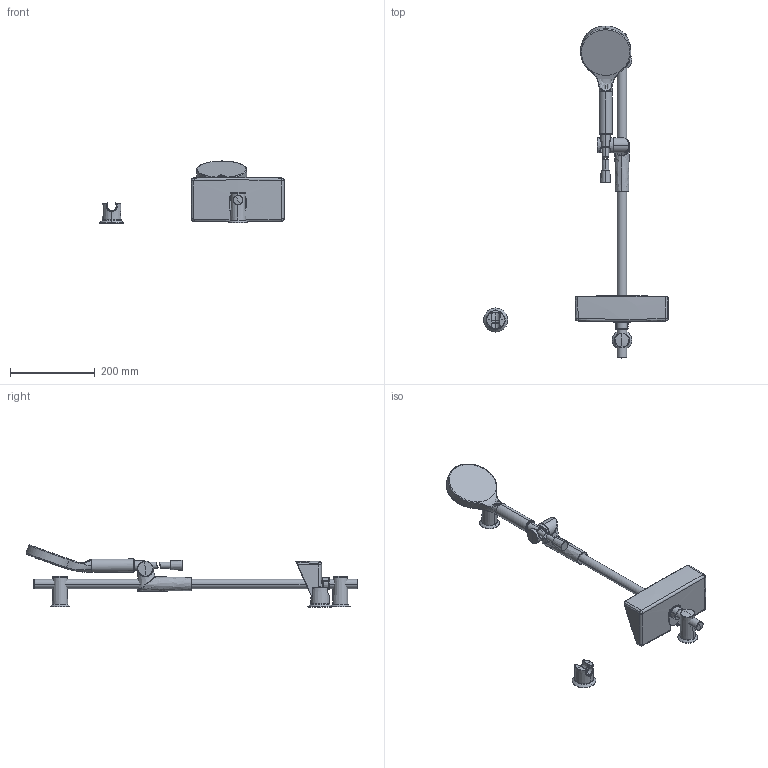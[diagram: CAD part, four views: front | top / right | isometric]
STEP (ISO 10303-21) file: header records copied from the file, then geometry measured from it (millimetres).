
FILE_DESCRIPTION (( 'STEP AP203' ), '1' );
FILE_NAME ('420.STEP', '2023-08-31T05:34:02', ( '' ), ( '' ), 'SwSTEP 2.0', 'SolidWorks 2016', '' );
FILE_SCHEMA (( 'CONFIG_CONTROL_DESIGN' ));
Length unit declared in the file: millimetre
Products named in the file (1): 420
Bounding box: 435.07 x 781.8 x 146.11 mm (x, y, z)
Volume: 1258251.8 mm3; surface area: 257287.6 mm2
Topology: 14 solids, 16 shells, 482 faces, 1152 edges, 701 vertices
Faces by surface type: bspline 225, cylinder 71, torus 63, plane 60, cone 46, sphere 17
Entity records: 34009 total; most frequent: CARTESIAN_POINT 24453, ORIENTED_EDGE 2292, DIRECTION 1566, EDGE_CURVE 1146, VERTEX_POINT 701, AXIS2_PLACEMENT_3D 683, B_SPLINE_CURVE_WITH_KNOTS 488, EDGE_LOOP 487
